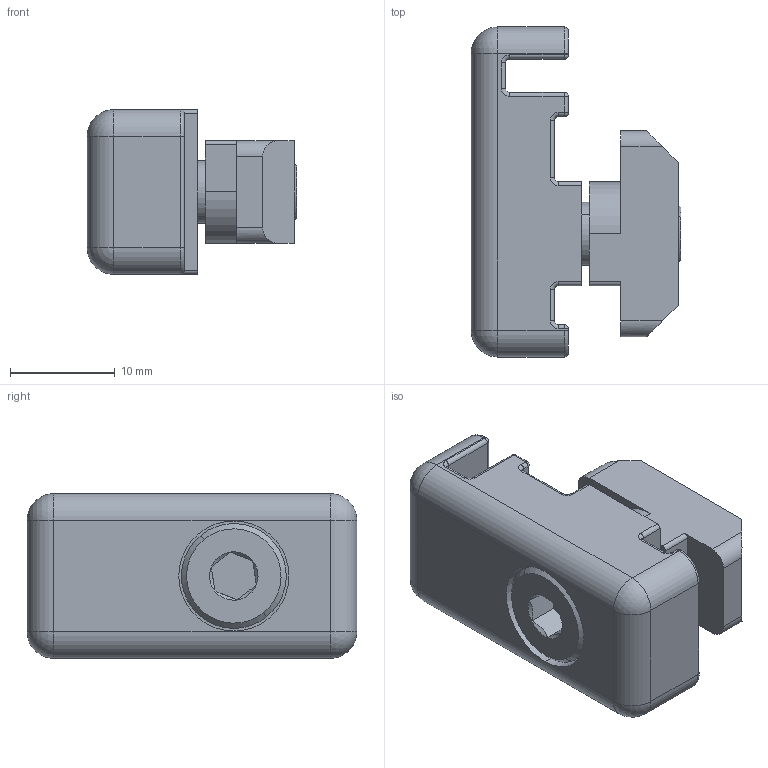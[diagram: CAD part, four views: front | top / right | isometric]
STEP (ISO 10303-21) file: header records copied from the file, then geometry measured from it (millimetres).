
FILE_DESCRIPTION((''),'2;1');
FILE_NAME('203661_ASM','2016-07-15T',('adam.dellomodarme'),(''),'PRO/ENGINEER BY PARAMETRIC TECHNOLOGY CORPORATION, 2012420','PRO/ENGINEER BY PARAMETRIC TECHNOLOGY CORPORATION, 2012420','');
FILE_SCHEMA(('CONFIG_CONTROL_DESIGN'));
Length unit declared in the file: inch
Products named in the file (5): 206685; 807-2878_807-2878; 206503_206503; ASM0001_ASM; 203661_ASM
Assembly tree (4 placements, depth 3):
  203661_ASM
    ASM0001_ASM
      206685
      807-2878_807-2878
      206503_206503
Bounding box: 20 x 31.45 x 15.7 mm (x, y, z)
Volume: 5305.7 mm3; surface area: 3589.7 mm2
Topology: 3 solids, 3 shells, 142 faces, 330 edges, 185 vertices
Faces by surface type: cylinder 62, plane 41, torus 16, sphere 12, cone 11
Entity records: 4130 total; most frequent: DIRECTION 763, CARTESIAN_POINT 747, ORIENTED_EDGE 636, EDGE_CURVE 318, AXIS2_PLACEMENT_3D 303, VERTEX_POINT 185, VECTOR 157, LINE 157
